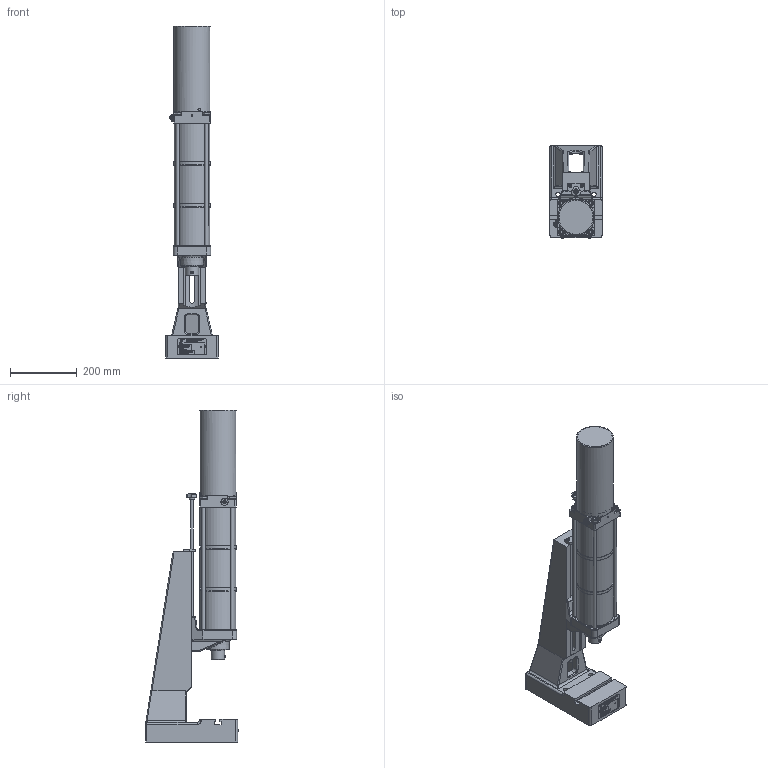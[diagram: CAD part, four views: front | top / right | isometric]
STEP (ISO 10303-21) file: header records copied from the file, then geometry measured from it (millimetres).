
FILE_DESCRIPTION(/* description */ ('BS Ständer L-DA Ausladung 80'),/* implementation_level */ '2;1');
FILE_NAME(/* name */ 'B:\02_CAD_oeffentlich\CAD_3D_oeffentlich_step\Druckluftpresse\DRP_L_1300_080_080.stp',/* time_stamp */ '2017-08-22T07:51:30+02:00',/* author */ ('Finsterle'),/* organization */ (''),/* preprocessor_version */ 'ST-DEVELOPER v16.1',/* originating_system */ 'Autodesk Inventor 2016',/* authorisation */ '');
FILE_SCHEMA (('AUTOMOTIVE_DESIGN { 1 0 10303 214 3 1 1 }'));
Products named in the file (5): ENG-000855_V; ENG-001056_V; HBF-000760; ENG-000755; HBF-001042_V
Assembly tree (5 placements, depth 2):
  HBF-001042_V
    ENG-000855_V
    ENG-001056_V
    HBF-000760
    ENG-000755  x2
Bounding box: 156 x 276.8 x 995.97 mm (x, y, z)
Volume: 5686845 mm3; surface area: 1219074.2 mm2
Topology: 6 solids, 6 shells, 7570 faces, 20701 edges, 13577 vertices
Faces by surface type: plane 4627, bspline 2241, cylinder 399, cone 146, torus 96, sphere 61
Full cylindrical faces by diameter (mm): 1 x1, 2 x1, 2.459 x2, 3 x9, 3.242 x2, 3.5 x2, 4 x3, 4.917 x2, 5 x4, 6.5 x2, 6.647 x1, 8 x9, 8.4 x1, 9.5 x1, 10 x6, 10.106 x1, 10.5 x8, 11 x2, 11.8 x2, 12 x6, 12.5 x3, 13 x4, 14.376 x1, 14.95 x3, 16 x1, 17.5 x2, 18 x3, 19.4 x1, 19.5 x1, 20 x7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
Entity records: 259118 total; most frequent: CARTESIAN_POINT 76863, ORIENTED_EDGE 40446, DIRECTION 27385, EDGE_CURVE 20218, LINE 14411, VECTOR 14411, VERTEX_POINT 13475, EDGE_LOOP 8425
